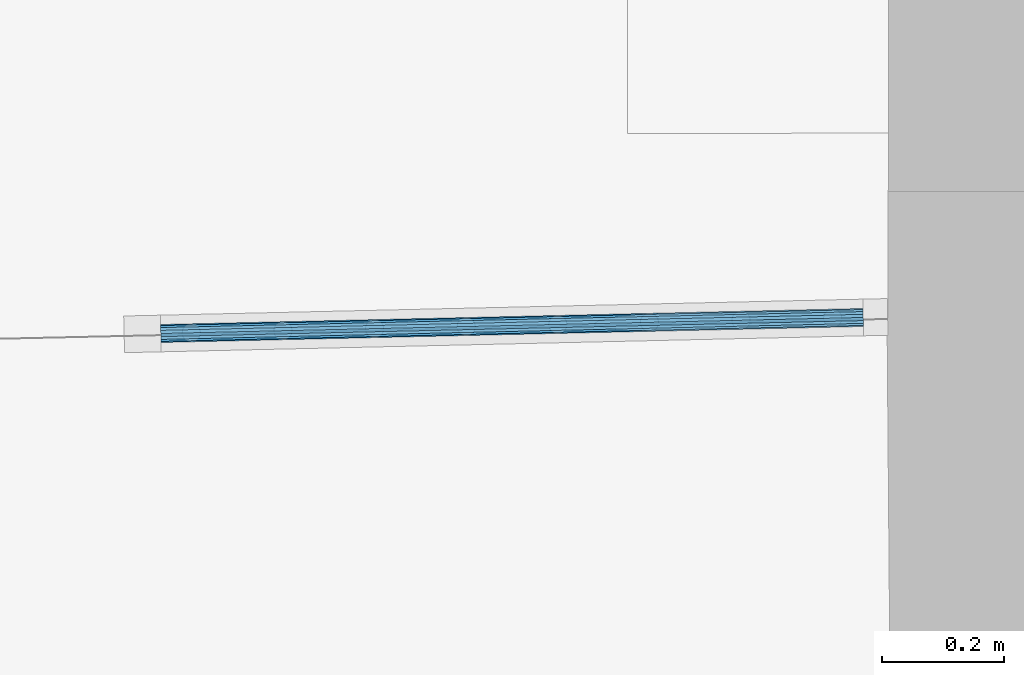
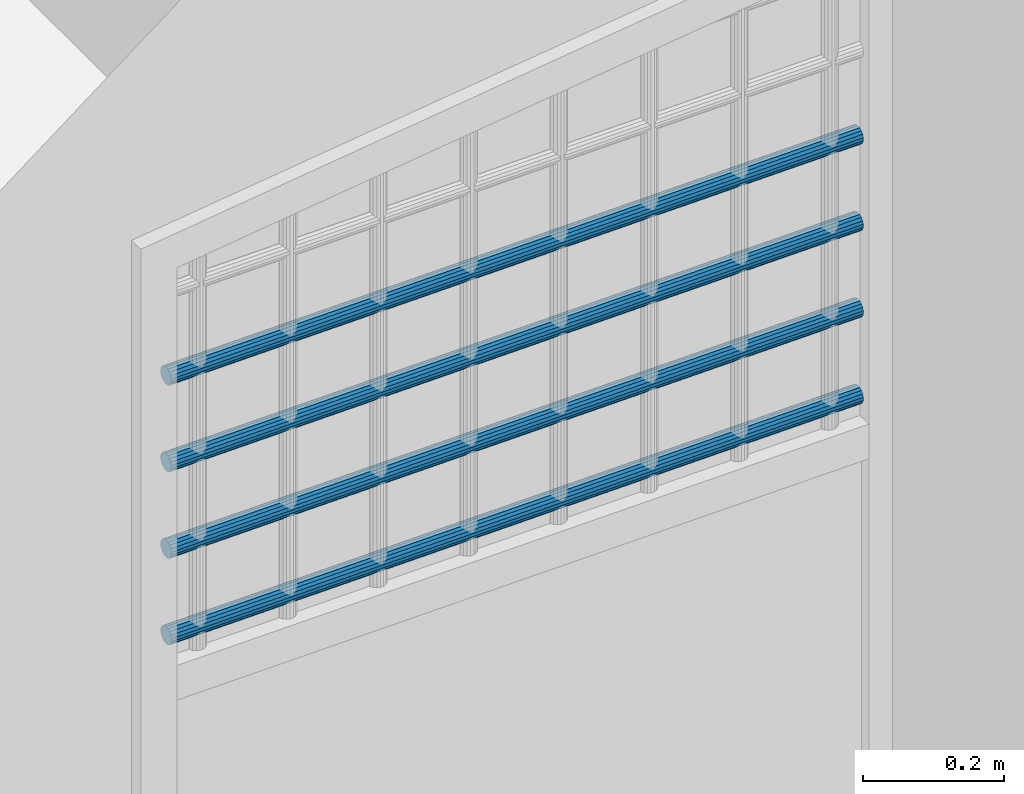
# One storey, part 34 of 133: 4 members, 1 element without a shape of its own.
"""IFC2X3 building model written with IfcOpenShell, lengths in centimetres."""

from ifc_helpers import new_model, entity, si_unit, converted_unit, direction, frame, origin, origin_with_axes, place, context, subcontext, project, spatial, faceted_brep, material, type_object, element, aggregate, save


model = new_model("IFC2X3")

# Units and contexts
model_context = context("Model", 3, precision=0.0001, world=origin(), true_north=direction((0.225632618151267, 0.974212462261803, 0.0)))
body_context = subcontext(model_context, "Body", "Model", "MODEL_VIEW")
ifc_project = project(units=[si_unit("LENGTHUNIT", "METRE", prefix="CENTI"), si_unit("AREAUNIT", "SQUARE_METRE", prefix="CENTI"), si_unit("VOLUMEUNIT", "CUBIC_METRE", prefix="CENTI"), converted_unit("PLANEANGLEUNIT", "DEGREE", entity("IfcRatioMeasure", 0.0174532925), si_unit("PLANEANGLEUNIT", "RADIAN"), dimensions=[0, 0, 0, 0, 0, 0, 0])], contexts=[model_context])

# Site, building, storey
site_placement = place(None, origin_with_axes())
site = spatial("IfcSite", under=ifc_project, at=site_placement, Name="Default Site", CompositionType="ELEMENT")
building_placement = place(site_placement, origin_with_axes())
building = spatial("IfcBuilding", under=site, at=building_placement, Name="Default Building", CompositionType="ELEMENT")
storey_placement = place(building_placement, frame((0.0, 0.0, -291.400371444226), z_axis=(0.0, 0.0, 1.0), x_axis=(1.0, 0.0, 0.0)))
storey = spatial("IfcBuildingStorey", under=building, at=storey_placement, Name="Rez-de-Jardin", CompositionType="ELEMENT", Elevation=-291.400371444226)

# Assembly, members
building_element_proxy_type = type_object("IfcBuildingElementProxyType", Name="Type Object", PredefinedType="NOTDEFINED")
assembly_placement = place(storey_placement, frame((230.29031879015, 209.448968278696, 0.0), z_axis=(0.0, 0.0, 1.0), x_axis=(-0.999739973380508, -0.0228031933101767, 0.0)))
assembly = element("IfcElementAssembly", 1, at=assembly_placement, inside=storey, type_object=building_element_proxy_type, Name="Panneau 76236", ObjectType="Precast panel", PredefinedType="USERDEFINED")
ifc_material = material(Name="Noyer 01")
member_1_placement = place(assembly_placement, frame((119.000005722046, -2.48696978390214, 124.08789396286), z_axis=(1.0, -6.99787450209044e-15, -4.04190569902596e-15), x_axis=(-8.08381139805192e-15, -0.866025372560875, -0.500000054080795)))
member_1 = element("IfcMember", 2, at=member_1_placement, material=ifc_material, Name="4294966846", context=body_context, shape_type="Brep", body=[
    faceted_brep([(-8.88178419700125e-14, 0.0, 2.22044604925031e-14), (-0.520944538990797, 7.30216236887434e-33, 1.79950504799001e-14), (-1.01047143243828, -0.178172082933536, 1.40391967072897e-14), (-1.40954075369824, -0.513033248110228, 1.08139992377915e-14), (-1.67001307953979, -0.964184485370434, 8.7085111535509e-15), (-1.76047079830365, -1.47720890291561, 7.97669189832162e-15), (-1.67000896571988, -1.99023768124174, 8.706764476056e-15), (-1.40953675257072, -2.44138891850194, 1.08106864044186e-14), (-1.01047353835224, -2.77625157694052, 1.40346727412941e-14), (-0.520942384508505, -2.95441919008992, 1.79899427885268e-14), (2.15448220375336e-06, -2.95441919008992, 2.21993528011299e-14), (0.489529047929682, -2.77624710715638, 2.61552065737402e-14), (0.888592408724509, -2.44139626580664, 2.9380355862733e-14), (1.14906473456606, -1.99024502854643, 3.14858439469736e-14), (1.23952841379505, -1.47721028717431, 3.22177113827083e-14), (1.14906658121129, -0.964181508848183, 3.14876388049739e-14), (0.888594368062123, -0.513030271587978, 2.93837168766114e-14), (0.489525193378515, -0.178177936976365, 2.61596823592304e-14), (0.489525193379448, -0.178177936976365, -115.000005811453), (0.888594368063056, -0.513030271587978, -115.000005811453), (1.14906658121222, -0.964181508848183, -115.000005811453), (1.23952841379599, -1.47721028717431, -115.000005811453), (1.149064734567, -1.99024502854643, -115.000005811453), (0.888592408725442, -2.44139626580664, -115.000005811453), (0.489529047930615, -2.77624710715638, -115.000005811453), (2.1544831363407e-06, -2.95441919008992, -115.000005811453), (-0.520942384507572, -2.95441919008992, -115.000005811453), (-1.01047353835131, -2.77625157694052, -115.000005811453), (-1.40953675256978, -2.44138891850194, -115.000005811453), (-1.67000896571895, -1.99023768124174, -115.000005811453), (-1.76047079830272, -1.47720890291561, -115.000005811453), (-1.67001307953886, -0.964184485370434, -115.000005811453), (-1.4095407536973, -0.513033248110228, -115.000005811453), (-1.01047143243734, -0.178172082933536, -115.000005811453), (-0.520944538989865, 0.0, -115.000005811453), (8.43769498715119e-13, 0.0, -115.000005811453), (0.489525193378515, -0.178177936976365, 2.22044604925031e-14), (0.888591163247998, -0.513034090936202, 2.22044345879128e-14), (0.88859116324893, -0.513034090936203, -115.000005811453), (0.489525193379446, -0.178177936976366, -115.000005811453), (0.888594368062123, -0.513030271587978, 2.22044604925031e-14), (1.14906660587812, -0.964181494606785, 2.22044606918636e-14), (1.14906660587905, -0.964181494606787, -115.000005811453), (0.888594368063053, -0.513030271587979, -115.000005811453), (1.14906658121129, -0.964181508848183, 2.22044604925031e-14), (1.23952740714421, -1.47721046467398, 2.22044523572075e-14), (1.23952740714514, -1.47721046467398, -115.000005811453), (1.14906658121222, -0.964181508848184, -115.000005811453), (1.23952841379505, -1.47721028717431, 2.22044604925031e-14), (1.14906646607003, -1.99024533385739, 2.22044744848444e-14), (1.14906646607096, -1.99024533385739, -115.000005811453), (1.23952841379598, -1.47721028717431, -115.000005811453), (1.14906473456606, -1.99024502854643, 2.22044604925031e-14), (0.888592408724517, -2.44139626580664, 2.22044604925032e-14), (0.888592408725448, -2.44139626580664, -115.000005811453), (1.14906473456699, -1.99024502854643, -115.000005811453), (0.888592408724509, -2.44139626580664, 2.22044604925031e-14), (0.489530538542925, -2.77624888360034, 2.22044725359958e-14), (0.489530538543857, -2.77624888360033, -115.000005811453), (0.88859240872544, -2.44139626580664, -115.000005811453), (0.489529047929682, -2.77624710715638, 2.22044604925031e-14), (2.50408829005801e-06, -2.954420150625, 2.22044633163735e-14), (2.50408922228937e-06, -2.954420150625, -115.000005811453), (0.489529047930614, -2.77624710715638, -115.000005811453), (2.15448220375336e-06, -2.95441919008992, 2.22044604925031e-14), (-0.520942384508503, -2.95441916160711, 2.22044604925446e-14), (-0.520942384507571, -2.95441916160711, -115.000005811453), (-0.520942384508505, -2.95441919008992, 2.22044604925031e-14), (-1.01047122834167, -2.77624523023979, 2.22044791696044e-14), (-1.01047122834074, -2.77624523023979, -115.000005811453), (-1.01047353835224, -2.77625157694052, 2.22044604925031e-14), (-1.40954109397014, -2.44139409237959, 2.22044254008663e-14), (-1.40954109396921, -2.4413940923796, -115.000005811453), (-1.01047353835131, -2.77625157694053, -115.000005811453), (-1.40953675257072, -2.44138891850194, 2.22044604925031e-14), (-1.67000899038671, -1.99023769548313, 2.22044602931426e-14), (-1.67000899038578, -1.99023769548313, -115.000005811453), (-1.40953675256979, -2.44138891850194, -115.000005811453), (-1.67000896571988, -1.99023768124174, 2.22044604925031e-14), (-1.7604697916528, -1.47720872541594, 2.22044686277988e-14), (-1.76046979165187, -1.47720872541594, -115.000005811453), (-1.76047079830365, -1.47720890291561, 2.22044604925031e-14), (-1.67001079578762, -0.964184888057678, 2.22044789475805e-14), (-1.67001079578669, -0.964184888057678, -115.000005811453), (-1.67001307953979, -0.964184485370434, 2.22044604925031e-14), (-1.40954075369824, -0.513033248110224, 2.22044604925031e-14), (-1.40954075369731, -0.513033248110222, -115.000005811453), (-1.67001307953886, -0.964184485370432, -115.000005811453), (-1.40954075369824, -0.513033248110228, 2.22044604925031e-14), (-1.01047030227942, -0.178173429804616, 2.22044696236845e-14), (-1.01047030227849, -0.178173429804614, -115.000005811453), (-1.4095407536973, -0.513033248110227, -115.000005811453), (-1.01047143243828, -0.178172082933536, 2.22044604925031e-14), (-0.520944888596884, 9.60535083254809e-07, 2.22044576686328e-14), (-0.520944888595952, 9.60535084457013e-07, -115.000005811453), (-1.01047143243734, -0.178172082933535, -115.000005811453), (-0.520944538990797, 0.0, 2.22044604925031e-14), (-9.03751482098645e-14, -2.84828050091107e-08, 2.22044604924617e-14), (8.42212192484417e-13, -2.84828048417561e-08, -115.000005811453), (-0.520944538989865, 1.67354659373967e-16, -115.000005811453), (0.489526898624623, -0.178173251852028, 2.22044742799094e-14), (0.489526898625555, -0.178173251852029, -115.000005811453), (8.43444400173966e-13, -8.93200741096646e-16, -115.000005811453)], [[[0, 1, 2, 3, 4, 5, 6, 7, 8, 9, 10, 11, 12, 13, 14, 15, 16, 17]], [[18, 19, 20, 21, 22, 23, 24, 25, 26, 27, 28, 29, 30, 31, 32, 33, 34, 35]], [[36, 37, 38, 39]], [[40, 41, 42, 43]], [[44, 45, 46, 47]], [[48, 49, 50, 51]], [[52, 53, 54, 55]], [[56, 57, 58, 59]], [[60, 61, 62, 63]], [[64, 65, 66, 25]], [[67, 68, 69, 26]], [[70, 71, 72, 73]], [[74, 75, 76, 77]], [[78, 79, 80, 29]], [[81, 82, 83, 30]], [[84, 85, 86, 87]], [[88, 89, 90, 91]], [[92, 93, 94, 95]], [[96, 97, 98, 99]], [[0, 100, 101, 102]]]),
])
member_2_placement = place(assembly_placement, frame((119.000005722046, -2.48696978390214, 109.087896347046), z_axis=(1.0, -6.99787450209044e-15, -4.04190569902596e-15), x_axis=(-8.08381139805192e-15, -0.866025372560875, -0.500000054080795)))
member_2 = element("IfcMember", 3, at=member_2_placement, material=ifc_material, Name="4294966845", context=body_context, shape_type="Brep", body=[
    faceted_brep([(-9.99200722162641e-14, -1.11022302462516e-14, 2.22044604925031e-14), (-0.52094453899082, -2.22044604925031e-14, 1.79950504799e-14), (-1.01047143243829, -0.178172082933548, 1.40391967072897e-14), (-1.40953479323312, -0.513022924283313, 1.08140474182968e-14), (-1.67000711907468, -0.964174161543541, 8.70855933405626e-15), (-1.76047079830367, -1.47720890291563, 7.97669189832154e-15), (-1.67000896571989, -1.99023768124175, 8.706764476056e-15), (-1.40953675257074, -2.44138891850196, 1.08106864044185e-14), (-1.01047353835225, -2.77625157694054, 1.40346727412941e-14), (-0.520942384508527, -2.95441919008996, 1.79899427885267e-14), (2.15448219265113e-06, -2.95441919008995, 2.21993528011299e-14), (0.48952904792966, -2.77624710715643, 2.61552065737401e-14), (0.888598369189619, -2.44138594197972, 2.93804040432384e-14), (1.14907069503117, -1.9902347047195, 3.14858921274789e-14), (1.23952841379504, -1.47721028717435, 3.22177113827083e-14), (1.14906658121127, -0.964181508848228, 3.14876388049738e-14), (0.888594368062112, -0.513030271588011, 2.93837168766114e-14), (0.489531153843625, -0.178167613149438, 2.61597305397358e-14), (0.489531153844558, -0.178167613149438, -115.000005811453), (0.888594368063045, -0.513030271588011, -115.000005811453), (1.1490665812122, -0.964181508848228, -115.000005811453), (1.23952841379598, -1.47721028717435, -115.000005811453), (1.14907069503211, -1.9902347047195, -115.000005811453), (0.888598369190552, -2.44138594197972, -115.000005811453), (0.489529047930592, -2.77624710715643, -115.000005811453), (2.15448312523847e-06, -2.95441919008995, -115.000005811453), (-0.520942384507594, -2.95441919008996, -115.000005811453), (-1.01047353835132, -2.77625157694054, -115.000005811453), (-1.40953675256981, -2.44138891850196, -115.000005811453), (-1.67000896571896, -1.99023768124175, -115.000005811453), (-1.76047079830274, -1.47720890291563, -115.000005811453), (-1.67000711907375, -0.964174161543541, -115.000005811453), (-1.40953479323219, -0.513022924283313, -115.000005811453), (-1.01047143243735, -0.178172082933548, -115.000005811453), (-0.520944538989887, -2.22044604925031e-14, -115.000005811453), (8.32667268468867e-13, -1.11022302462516e-14, -115.000005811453), (0.489531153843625, -0.178167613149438, 2.22044604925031e-14), (0.888598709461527, -0.51302509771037, 2.22044955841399e-14), (0.888598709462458, -0.513025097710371, -115.000005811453), (0.489531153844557, -0.17816761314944, -115.000005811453), (0.888594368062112, -0.513030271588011, 2.22044604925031e-14), (1.14906660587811, -0.964181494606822, 2.22044606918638e-14), (1.14906660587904, -0.964181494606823, -115.000005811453), (0.888594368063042, -0.513030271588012, -115.000005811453), (1.14906658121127, -0.964181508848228, 2.22044604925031e-14), (1.23952740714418, -1.47721046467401, 2.22044523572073e-14), (1.23952740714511, -1.47721046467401, -115.000005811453), (1.1490665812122, -0.964181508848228, -115.000005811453), (1.23952841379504, -1.47721028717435, 2.22044604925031e-14), (1.14906841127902, -1.99023430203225, 2.22044420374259e-14), (1.14906841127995, -1.99023430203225, -115.000005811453), (1.23952841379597, -1.47721028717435, -115.000005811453), (1.14907069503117, -1.9902347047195, 2.22044604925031e-14), (0.888598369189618, -2.44138594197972, 2.22044604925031e-14), (0.888598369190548, -2.44138594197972, -115.000005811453), (1.1490706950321, -1.99023470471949, -115.000005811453), (0.888598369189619, -2.44138594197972, 2.22044604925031e-14), (0.489527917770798, -2.77624576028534, 2.22044513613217e-14), (0.489527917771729, -2.77624576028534, -115.000005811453), (0.88859836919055, -2.44138594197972, -115.000005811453), (0.48952904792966, -2.77624710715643, 2.22044604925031e-14), (2.50408828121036e-06, -2.95442015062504, 2.22044633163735e-14), (2.50408921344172e-06, -2.95442015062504, -115.000005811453), (0.489529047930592, -2.77624710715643, -115.000005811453), (2.15448219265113e-06, -2.95441919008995, 2.22044604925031e-14), (-0.520942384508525, -2.95441916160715, 2.22044604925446e-14), (-0.520942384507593, -2.95441916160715, -115.000005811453), (-0.520942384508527, -2.95441919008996, 2.22044604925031e-14), (-1.0104712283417, -2.77624523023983, 2.22044791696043e-14), (-1.01047122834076, -2.77624523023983, -115.000005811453), (-0.520942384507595, -2.95441919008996, -115.000005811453), (-1.01047353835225, -2.77625157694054, 2.22044604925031e-14), (-1.40954109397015, -2.4413940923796, 2.22044254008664e-14), (-1.40954109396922, -2.44139409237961, -115.000005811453), (-1.40953675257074, -2.44138891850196, 2.22044604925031e-14), (-1.67000899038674, -1.99023769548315, 2.22044602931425e-14), (-1.67000899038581, -1.99023769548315, -115.000005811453), (-1.67000896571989, -1.99023768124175, 2.22044604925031e-14), (-1.76046979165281, -1.47720872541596, 2.22044686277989e-14), (-1.76046979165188, -1.47720872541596, -115.000005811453), (-1.76047079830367, -1.47720890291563, 2.22044604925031e-14), (-1.67000885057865, -0.964173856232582, 2.22044465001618e-14), (-1.67000885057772, -0.964173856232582, -115.000005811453), (-1.67000711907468, -0.964174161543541, 2.22044604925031e-14), (-1.40953479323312, -0.513022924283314, 2.22044604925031e-14), (-1.40953479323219, -0.513022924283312, -115.000005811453), (-1.67000711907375, -0.964174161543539, -115.000005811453), (-1.40953479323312, -0.513022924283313, 2.22044604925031e-14), (-1.01047292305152, -0.1781703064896, 2.22044484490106e-14), (-1.01047292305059, -0.178170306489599, -115.000005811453), (-1.40953479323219, -0.513022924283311, -115.000005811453), (-1.01047143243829, -0.178172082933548, 2.22044604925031e-14), (-0.520944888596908, 9.60535067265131e-07, 2.22044576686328e-14), (-0.520944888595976, 9.60535068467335e-07, -115.000005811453), (-1.01047143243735, -0.178172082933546, -115.000005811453), (-0.52094453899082, -2.22044604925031e-14, 2.22044604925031e-14), (-1.01477379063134e-13, -2.84828272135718e-08, 2.22044604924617e-14), (8.31109961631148e-13, -2.84828270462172e-08, -115.000005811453), (-0.520944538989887, -2.2037105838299e-14, -115.000005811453), (0.489528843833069, -0.178173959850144, 2.2204441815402e-14), (0.489528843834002, -0.178173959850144, -115.000005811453), (8.32342169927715e-13, -1.19954309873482e-14, -115.000005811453)], [[[0, 1, 2, 3, 4, 5, 6, 7, 8, 9, 10, 11, 12, 13, 14, 15, 16, 17]], [[18, 19, 20, 21, 22, 23, 24, 25, 26, 27, 28, 29, 30, 31, 32, 33, 34, 35]], [[36, 37, 38, 39]], [[40, 41, 42, 43]], [[44, 45, 46, 47]], [[48, 49, 50, 51]], [[52, 53, 54, 55]], [[56, 57, 58, 59]], [[60, 61, 62, 63]], [[64, 65, 66, 25]], [[67, 68, 69, 70]], [[71, 72, 73, 27]], [[74, 75, 76, 28]], [[77, 78, 79, 29]], [[80, 81, 82, 30]], [[83, 84, 85, 86]], [[87, 88, 89, 90]], [[91, 92, 93, 94]], [[95, 96, 97, 98]], [[0, 99, 100, 101]]]),
])
member_3_placement = place(assembly_placement, frame((119.000005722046, -2.48696978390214, 94.0878927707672), z_axis=(1.0, -6.99787450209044e-15, -4.04190569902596e-15), x_axis=(-8.08381139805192e-15, -0.866025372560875, -0.500000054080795)))
member_3 = element("IfcMember", 4, at=member_3_placement, material=ifc_material, Name="4294966844", context=body_context, shape_type="Brep", body=[
    faceted_brep([(-6.10622663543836e-14, 0.0, 4.44089209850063e-14), (-0.520944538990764, -1.11022302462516e-14, 4.01995109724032e-14), (-1.01047143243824, -0.178172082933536, 3.6243657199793e-14), (-1.40953777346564, -0.513028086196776, 3.30184838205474e-14), (-1.6700100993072, -0.964179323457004, 3.09129957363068e-14), (-1.76047377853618, -1.47721406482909, 3.01811283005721e-14), (-1.6700119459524, -1.99024284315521, 3.09112008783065e-14), (-1.40953973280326, -2.44139408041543, 3.3015122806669e-14), (-1.01047353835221, -2.77625157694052, 3.62391332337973e-14), (-0.520945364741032, -2.95442435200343, 4.01943791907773e-14), (-8.25750329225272e-07, -2.95442435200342, 4.44037892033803e-14), (0.489526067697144, -2.77625226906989, 4.83596429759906e-14), (0.888595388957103, -2.44139110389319, 5.15848404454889e-14), (1.14906771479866, -1.99023986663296, 5.36903285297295e-14), (1.23952841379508, -1.47721028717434, 5.44221718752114e-14), (1.14906658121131, -0.964181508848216, 5.3692099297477e-14), (0.888594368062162, -0.513030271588, 5.15881773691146e-14), (0.489528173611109, -0.178172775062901, 4.83641669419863e-14), (0.489528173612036, -0.178172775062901, -115.000005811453), (0.888594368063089, -0.513030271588, -115.000005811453), (1.14906658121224, -0.964181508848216, -115.000005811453), (1.23952841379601, -1.47721028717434, -115.000005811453), (1.14906771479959, -1.99023986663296, -115.000005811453), (0.88859538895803, -2.44139110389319, -115.000005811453), (0.489526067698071, -2.77625226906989, -115.000005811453), (-8.25749402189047e-07, -2.95442435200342, -115.000005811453), (-0.520945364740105, -2.95442435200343, -115.000005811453), (-1.01047353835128, -2.77625157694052, -115.000005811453), (-1.40953973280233, -2.44139408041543, -115.000005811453), (-1.67001194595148, -1.99024284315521, -115.000005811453), (-1.76047377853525, -1.47721406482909, -115.000005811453), (-1.67001009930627, -0.964179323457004, -115.000005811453), (-1.40953777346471, -0.513028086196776, -115.000005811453), (-1.01047143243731, -0.178172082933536, -115.000005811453), (-0.520944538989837, -1.11022302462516e-14, -115.000005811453), (8.65973959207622e-13, 0.0, -115.000005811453), (0.489528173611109, -0.178172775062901, 4.44089209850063e-14), (0.888594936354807, -0.513029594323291, 4.44089255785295e-14), (0.888594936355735, -0.51302959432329, -115.000005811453), (0.489528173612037, -0.1781727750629, -115.000005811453), (0.888594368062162, -0.513030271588, 4.44089209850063e-14), (1.14906660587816, -0.964181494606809, 4.44089211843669e-14), (1.14906660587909, -0.964181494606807, -115.000005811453), (0.888594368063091, -0.513030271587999, -115.000005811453), (1.14906658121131, -0.964181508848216, 4.44089209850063e-14), (1.23952740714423, -1.477210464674, 4.44089128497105e-14), (1.23952740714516, -1.477210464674, -115.000005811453), (1.23952841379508, -1.47721028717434, 4.44089209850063e-14), (1.14906743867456, -1.99023981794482, 4.44089187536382e-14), (1.14906743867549, -1.99023981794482, -115.000005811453), (1.14906771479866, -1.99023986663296, 4.44089209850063e-14), (0.888595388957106, -2.44139110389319, 4.44089209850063e-14), (0.888595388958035, -2.44139110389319, -115.000005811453), (0.888595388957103, -2.44139110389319, 4.44089209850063e-14), (0.489524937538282, -2.7762509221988, 2.22044513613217e-14), (0.48952493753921, -2.7762509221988, -115.000005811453), (0.888595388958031, -2.44139110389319, -115.000005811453), (0.489526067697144, -2.77625226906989, 2.22044604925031e-14), (-4.76144239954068e-07, -2.95442531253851, 2.22044633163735e-14), (-4.76143312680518e-07, -2.95442531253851, -115.000005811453), (-8.25750329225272e-07, -2.95442435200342, 2.22044604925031e-14), (-0.520945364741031, -2.95442432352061, 2.22044604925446e-14), (-0.520945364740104, -2.95442432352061, -115.000005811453), (-0.520945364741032, -2.95442435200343, 2.22044604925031e-14), (-1.01047323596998, -2.77625074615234, 2.22044629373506e-14), (-1.01047323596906, -2.77625074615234, -115.000005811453), (-1.01047353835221, -2.77625157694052, 2.22044604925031e-14), (-1.4095403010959, -2.44139475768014, 2.22044558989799e-14), (-1.40954030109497, -2.44139475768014, -115.000005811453), (-1.40953973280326, -2.44139408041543, 2.22044604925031e-14), (-1.67001197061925, -1.99024285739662, 2.22044602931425e-14), (-1.67001197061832, -1.99024285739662, -115.000005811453), (-1.6700119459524, -1.99024284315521, 2.22044604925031e-14), (-1.76047277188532, -1.47721388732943, 2.22044686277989e-14), (-1.76047277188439, -1.47721388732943, -115.000005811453), (-1.76047377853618, -1.47721406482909, 2.22044604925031e-14), (-1.67001183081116, -0.964179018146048, 4.4408906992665e-14), (-1.67001183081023, -0.964179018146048, -115.000005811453), (-1.6700100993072, -0.964179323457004, 4.44089209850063e-14), (-1.40953777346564, -0.513028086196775, 4.44089209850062e-14), (-1.67001009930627, -0.964179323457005, -115.000005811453), (-1.40953777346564, -0.513028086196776, 4.44089209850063e-14), (-1.01047161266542, -0.178171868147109, 4.44089195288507e-14), (-1.01047161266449, -0.17817186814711, -115.000005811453), (-1.40953777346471, -0.513028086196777, -115.000005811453), (-1.01047143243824, -0.178172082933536, 4.44089209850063e-14), (-0.520944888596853, 9.60535080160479e-07, 4.44089181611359e-14), (-0.520944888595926, 9.60535079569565e-07, -115.000005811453), (-1.01047143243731, -0.178172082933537, -115.000005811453), (-0.520944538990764, -1.11022302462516e-14, 4.44089209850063e-14), (-6.26195732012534e-14, -2.84828161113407e-08, 4.44089209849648e-14), (8.64416652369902e-13, -2.84828159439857e-08, -115.000005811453), (-0.520944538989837, -1.09348752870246e-14, -115.000005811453), (0.489527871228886, -0.178173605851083, 4.44089185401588e-14), (0.489527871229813, -0.178173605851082, -115.000005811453), (8.66298217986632e-13, 8.90893513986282e-16, -115.000005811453)], [[[0, 1, 2, 3, 4, 5, 6, 7, 8, 9, 10, 11, 12, 13, 14, 15, 16, 17]], [[18, 19, 20, 21, 22, 23, 24, 25, 26, 27, 28, 29, 30, 31, 32, 33, 34, 35]], [[36, 37, 38, 39]], [[40, 41, 42, 43]], [[44, 45, 46, 20]], [[47, 48, 49, 21]], [[50, 51, 52, 22]], [[53, 54, 55, 56]], [[57, 58, 59, 24]], [[60, 61, 62, 25]], [[63, 64, 65, 26]], [[66, 67, 68, 27]], [[69, 70, 71, 28]], [[72, 73, 74, 29]], [[75, 76, 77, 30]], [[78, 79, 32, 80]], [[81, 82, 83, 84]], [[85, 86, 87, 88]], [[89, 90, 91, 92]], [[0, 93, 94, 95]]]),
])
member_4_placement = place(assembly_placement, frame((119.000005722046, -2.48696978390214, 79.087895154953), z_axis=(1.0, -6.99787450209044e-15, -4.04190569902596e-15), x_axis=(-8.08381139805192e-15, -0.866025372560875, -0.500000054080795)))
member_4 = element("IfcMember", 5, at=member_4_placement, material=ifc_material, Name="4294966843", context=body_context, shape_type="Brep", body=[
    faceted_brep([(-7.7715611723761e-14, 2.22044604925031e-14, 4.44089209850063e-14), (-0.520944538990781, 1.11022302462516e-14, 4.01995109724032e-14), (-1.01047143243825, -0.178172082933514, 3.6243657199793e-14), (-1.40953777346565, -0.513028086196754, 3.30184838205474e-14), (-1.67001009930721, -0.964179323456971, 3.09129957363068e-14), (-1.76047079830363, -1.47720890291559, 3.01811523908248e-14), (-1.67000896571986, -1.99023768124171, 3.09112249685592e-14), (-1.40953675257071, -2.44138891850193, 3.30151468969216e-14), (-1.01047055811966, -2.77624641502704, 3.623915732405e-14), (-0.520942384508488, -2.95441919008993, 4.019440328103e-14), (2.15448221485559e-06, -2.95441919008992, 4.4403813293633e-14), (0.489529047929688, -2.77624710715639, 4.83596670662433e-14), (0.888595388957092, -2.44139110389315, 5.15848404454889e-14), (1.14906771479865, -1.99023986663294, 5.36903285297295e-14), (1.23952841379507, -1.47721028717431, 5.44221718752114e-14), (1.14906658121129, -0.964181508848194, 5.3692099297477e-14), (0.888594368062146, -0.513030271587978, 5.15881773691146e-14), (0.489528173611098, -0.178172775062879, 4.83641669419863e-14), (0.489528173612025, -0.178172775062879, -115.000005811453), (0.888594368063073, -0.513030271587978, -115.000005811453), (1.14906658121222, -0.964181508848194, -115.000005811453), (1.23952841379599, -1.47721028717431, -115.000005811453), (1.14906771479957, -1.99023986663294, -115.000005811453), (0.888595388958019, -2.44139110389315, -115.000005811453), (0.489529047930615, -2.77624710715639, -115.000005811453), (2.15448314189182e-06, -2.95441919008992, -115.000005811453), (-0.520942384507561, -2.95441919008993, -115.000005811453), (-1.01047055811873, -2.77624641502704, -115.000005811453), (-1.40953675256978, -2.44138891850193, -115.000005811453), (-1.67000896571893, -1.99023768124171, -115.000005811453), (-1.7604707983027, -1.47720890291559, -115.000005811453), (-1.67001009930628, -0.964179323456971, -115.000005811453), (-1.40953777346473, -0.513028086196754, -115.000005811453), (-1.01047143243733, -0.178172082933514, -115.000005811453), (-0.520944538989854, 1.11022302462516e-14, -115.000005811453), (8.49320613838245e-13, 2.22044604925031e-14, -115.000005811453), (0.489528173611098, -0.178172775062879, 4.44089209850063e-14), (0.888594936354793, -0.513029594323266, 4.44089255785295e-14), (0.888594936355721, -0.513029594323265, -115.000005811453), (0.489528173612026, -0.178172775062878, -115.000005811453), (0.888594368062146, -0.513030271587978, 4.44089209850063e-14), (1.14906660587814, -0.964181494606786, 4.44089211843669e-14), (1.14906660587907, -0.964181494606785, -115.000005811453), (0.888594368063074, -0.513030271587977, -115.000005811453), (1.14906658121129, -0.964181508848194, 4.44089209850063e-14), (1.23952740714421, -1.47721046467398, 2.22044523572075e-14), (1.23952740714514, -1.47721046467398, -115.000005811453), (1.23952841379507, -1.47721028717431, 2.22044604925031e-14), (1.14906743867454, -1.99023981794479, 2.22044582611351e-14), (1.14906743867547, -1.99023981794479, -115.000005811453), (1.23952841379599, -1.47721028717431, -115.000005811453), (1.14906771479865, -1.99023986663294, 2.22044604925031e-14), (0.888595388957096, -2.44139110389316, 2.22044604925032e-14), (0.888595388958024, -2.44139110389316, -115.000005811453), (0.888595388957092, -2.44139110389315, 2.22044604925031e-14), (0.489529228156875, -2.77624732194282, 2.22044619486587e-14), (0.489529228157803, -2.77624732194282, -115.000005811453), (0.88859538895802, -2.44139110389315, -115.000005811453), (0.489529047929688, -2.77624710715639, 2.22044604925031e-14), (2.5040883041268e-06, -2.95442015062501, 2.22044633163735e-14), (2.50408923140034e-06, -2.95442015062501, -115.000005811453), (2.15448221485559e-06, -2.95441919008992, 2.22044604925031e-14), (-0.520942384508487, -2.95441916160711, 2.22044604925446e-14), (-0.52094238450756, -2.95441916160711, -115.000005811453), (-0.520942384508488, -2.95441919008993, 2.22044604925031e-14), (-1.01047025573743, -2.77624558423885, 2.22044629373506e-14), (-1.0104702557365, -2.77624558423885, -115.000005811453), (-1.01047055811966, -2.77624641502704, 2.22044604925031e-14), (-1.40953732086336, -2.44138959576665, 2.22044558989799e-14), (-1.40953732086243, -2.44138959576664, -115.000005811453), (-1.40953675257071, -2.44138891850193, 2.22044604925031e-14), (-1.67000899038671, -1.99023769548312, 2.22044602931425e-14), (-1.67000899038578, -1.99023769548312, -115.000005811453), (-1.67000896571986, -1.99023768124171, 2.22044604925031e-14), (-1.76046979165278, -1.47720872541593, 2.22044686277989e-14), (-1.76046979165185, -1.47720872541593, -115.000005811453), (-1.76047079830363, -1.47720890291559, 2.22044604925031e-14), (-1.67000982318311, -0.964179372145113, 2.22044627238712e-14), (-1.67000982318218, -0.964179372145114, -115.000005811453), (-1.67001009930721, -0.964179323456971, 2.22044604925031e-14), (-1.40953777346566, -0.513028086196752, 2.22044604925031e-14), (-1.40953777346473, -0.513028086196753, -115.000005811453), (-1.67001009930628, -0.964179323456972, -115.000005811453), (-1.40953777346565, -0.513028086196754, 2.22044604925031e-14), (-1.01047161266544, -0.178171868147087, 2.22044590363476e-14), (-1.01047161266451, -0.178171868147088, -115.000005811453), (-1.40953777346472, -0.513028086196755, -115.000005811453), (-1.01047143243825, -0.178172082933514, 2.22044604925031e-14), (-0.52094488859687, 9.60535102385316e-07, 4.44089181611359e-14), (-0.520944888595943, 9.60535101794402e-07, -115.000005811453), (-1.01047143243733, -0.178172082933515, -115.000005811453), (-0.520944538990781, 1.11022302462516e-14, 4.44089209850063e-14), (-7.92729185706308e-14, -2.84827939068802e-08, 4.44089209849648e-14), (8.47763307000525e-13, -2.84827937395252e-08, -115.000005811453), (-0.520944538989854, 1.12695852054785e-14, -115.000005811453), (0.489527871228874, -0.178173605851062, 4.44089185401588e-14), (0.489527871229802, -0.178173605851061, -115.000005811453), (8.49644872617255e-13, 2.30953540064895e-14, -115.000005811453)], [[[0, 1, 2, 3, 4, 5, 6, 7, 8, 9, 10, 11, 12, 13, 14, 15, 16, 17]], [[18, 19, 20, 21, 22, 23, 24, 25, 26, 27, 28, 29, 30, 31, 32, 33, 34, 35]], [[36, 37, 38, 39]], [[40, 41, 42, 43]], [[44, 45, 46, 20]], [[47, 48, 49, 50]], [[51, 52, 53, 22]], [[54, 55, 56, 57]], [[58, 59, 60, 24]], [[61, 62, 63, 25]], [[64, 65, 66, 26]], [[67, 68, 69, 27]], [[70, 71, 72, 28]], [[73, 74, 75, 29]], [[76, 77, 78, 30]], [[79, 80, 81, 82]], [[83, 84, 85, 86]], [[87, 88, 89, 90]], [[91, 92, 93, 94]], [[0, 95, 96, 97]]]),
])
aggregate(assembly, [member_1, member_2, member_3, member_4])

save(model, "model.ifc")
